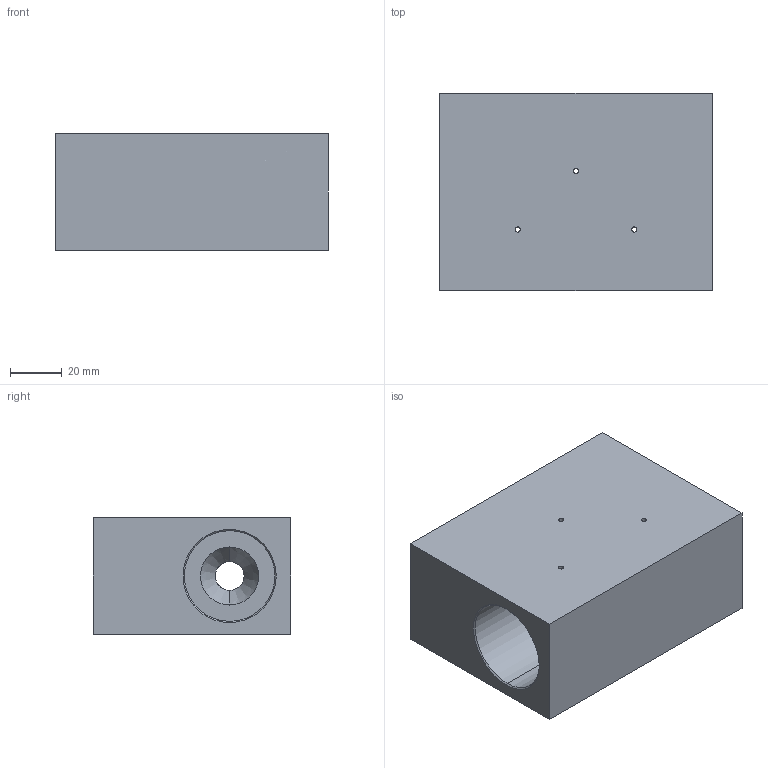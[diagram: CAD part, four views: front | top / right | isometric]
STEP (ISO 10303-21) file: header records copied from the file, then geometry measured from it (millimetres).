
FILE_DESCRIPTION (( 'STEP AP203' ), '1' );
FILE_NAME ('FT30TS16.STEP', '2026-06-26T01:32:43', ( 'USER' ), ( '' ), 'SwSTEP 2.0', 'SolidWorks 2023', '' );
FILE_SCHEMA (( 'CONFIG_CONTROL_DESIGN' ));
Length unit declared in the file: millimetre
Products named in the file (1): FT30TS16
Bounding box: 105 x 76 x 45 mm (x, y, z)
Volume: 254268.2 mm3; surface area: 44608.4 mm2
Topology: 1 solids, 1 shells, 44 faces, 114 edges, 68 vertices
Faces by surface type: cylinder 23, cone 12, plane 9
Entity records: 1601 total; most frequent: CARTESIAN_POINT 429, ORIENTED_EDGE 228, DIRECTION 228, EDGE_CURVE 114, AXIS2_PLACEMENT_3D 87, VERTEX_POINT 68, EDGE_LOOP 56, VECTOR 54
